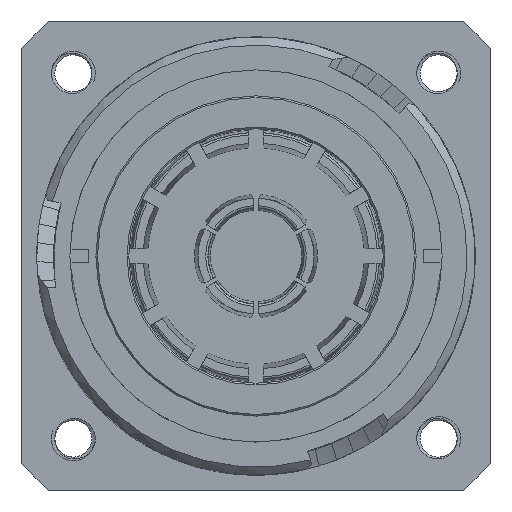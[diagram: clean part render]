
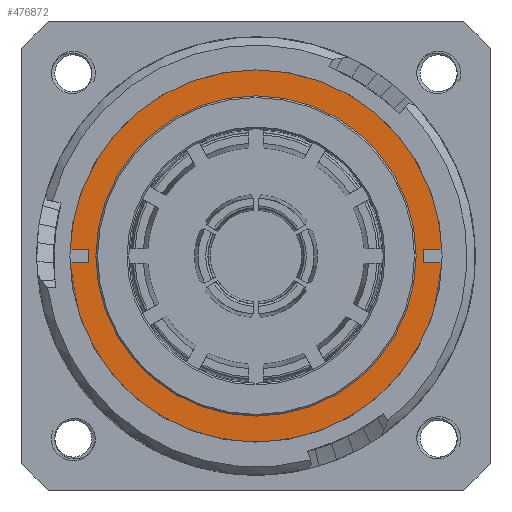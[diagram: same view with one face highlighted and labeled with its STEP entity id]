
A CAD part, left-side view. The second image highlights one B-rep face of the part: STEP entity #476872.
In plain terms, the highlighted planar face has unit normal (-1, 0, 0).
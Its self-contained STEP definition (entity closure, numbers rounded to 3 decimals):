
#142717=CARTESIAN_POINT('',(25.8,0.,0.));
#142718=DIRECTION('',(1.,0.,0.));
#142719=DIRECTION('',(0.,-0.999,0.036));
#142720=AXIS2_PLACEMENT_3D('',#142717,#142718,#142719);
#142722=CARTESIAN_POINT('',(25.8,0.,0.));
#142723=DIRECTION('',(-1.,0.,0.));
#142724=DIRECTION('',(0.,-1.,0.));
#142725=AXIS2_PLACEMENT_3D('',#142722,#142723,#142724);
#142727=CARTESIAN_POINT('',(25.8,0.,0.));
#142728=DIRECTION('',(1.,0.,0.));
#142729=DIRECTION('',(0.,-1.,0.));
#142730=AXIS2_PLACEMENT_3D('',#142727,#142728,#142729);
#142748=CARTESIAN_POINT('',(25.8,0.,0.));
#142749=DIRECTION('',(-1.,0.,0.));
#142750=DIRECTION('',(0.,-0.999,0.036));
#142751=AXIS2_PLACEMENT_3D('',#142748,#142749,#142750);
#145204=CARTESIAN_POINT('',(25.8,-19.5,0.));
#145205=CARTESIAN_POINT('',(25.8,19.5,0.));
#145206=VERTEX_POINT('',#145204);
#145207=VERTEX_POINT('',#145205);
#145726=CARTESIAN_POINT('',(25.8,22.66,0.825));
#145727=VERTEX_POINT('',#145726);
#145732=CARTESIAN_POINT('',(25.8,-22.66,0.825));
#145733=VERTEX_POINT('',#145732);
#476856=CARTESIAN_POINT('',(25.8,0.,0.));
#476857=DIRECTION('',(-1.,0.,0.));
#476858=DIRECTION('',(0.,1.,0.));
#476859=AXIS2_PLACEMENT_3D('',#476856,#476857,#476858);
#476860=PLANE('312',#476859);
#476862=ORIENTED_EDGE('11949',*,*,#476861,.F.);
#476863=ORIENTED_EDGE('11958',*,*,#476823,.T.);
#476864=EDGE_LOOP('312',(#476862,#476863));
#476865=FACE_OUTER_BOUND('312',#476864,.F.);
#476867=ORIENTED_EDGE('11346',*,*,#476866,.T.);
#476869=ORIENTED_EDGE('11345',*,*,#476868,.F.);
#476870=EDGE_LOOP('312',(#476867,#476869));
#476871=FACE_BOUND('312',#476870,.F.);
#142721=CIRCLE('11958',#142720,22.675);
#142726=CIRCLE('11346',#142725,19.5);
#142731=CIRCLE('11345',#142730,19.5);
#142752=CIRCLE('11949',#142751,22.675);
#476823=EDGE_CURVE('11958',#145733,#145727,#142721,.T.);
#476861=EDGE_CURVE('11949',#145733,#145727,#142752,.T.);
#476866=EDGE_CURVE('11346',#145206,#145207,#142726,.T.);
#476868=EDGE_CURVE('11345',#145206,#145207,#142731,.T.);
#476872=ADVANCED_FACE('312',(#476865,#476871),#476860,.T.);
